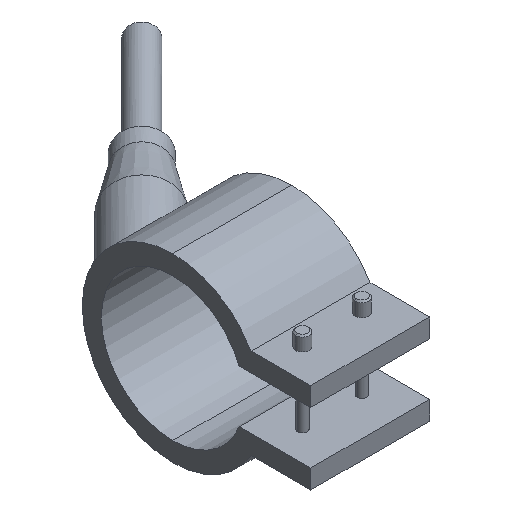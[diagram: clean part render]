
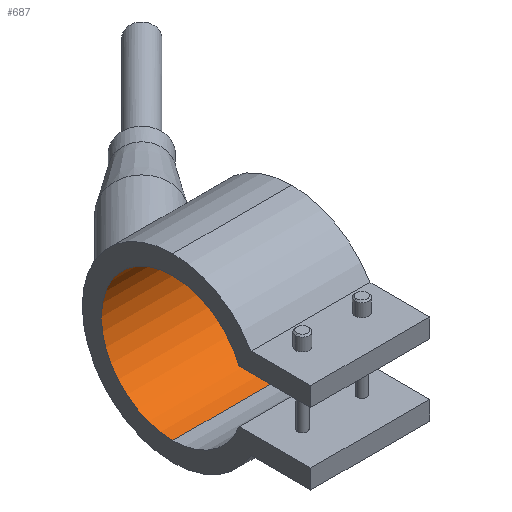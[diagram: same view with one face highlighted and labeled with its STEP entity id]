
A CAD part, isometric view. The second image highlights one B-rep face of the part: STEP entity #687.
In plain terms, the highlighted cylindrical face has radius 15 mm (diameter 30 mm), a partial arc.
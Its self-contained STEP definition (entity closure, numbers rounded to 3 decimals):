
#357=CARTESIAN_POINT('Vertex',(12.5,0.,15.)) ;
#362=CARTESIAN_POINT('Axis2P3D Location',(12.5,0.,0.)) ;
#366=CARTESIAN_POINT('Vertex',(12.5,0.,-15.)) ;
#473=CARTESIAN_POINT('Vertex',(-12.5,0.,-15.)) ;
#476=CARTESIAN_POINT('Axis2P3D Location',(-12.5,0.,0.)) ;
#480=CARTESIAN_POINT('Vertex',(-12.5,0.,15.)) ;
#659=CARTESIAN_POINT('Line Origine',(12.5,0.,15.)) ;
#671=CARTESIAN_POINT('Axis2P3D Location',(12.5,0.,0.)) ;
#676=CARTESIAN_POINT('Line Origine',(12.5,0.,-15.)) ;
#363=DIRECTION('Axis2P3D Direction',(1.,0.,0.)) ;
#477=DIRECTION('Axis2P3D Direction',(1.,0.,0.)) ;
#660=DIRECTION('Vector Direction',(1.,0.,0.)) ;
#672=DIRECTION('Axis2P3D Direction',(1.,0.,-0.)) ;
#673=DIRECTION('Axis2P3D XDirection',(0.,0.,-1.)) ;
#677=DIRECTION('Vector Direction',(1.,0.,0.)) ;
#364=AXIS2_PLACEMENT_3D('Circle Axis2P3D',#362,#363,$) ;
#478=AXIS2_PLACEMENT_3D('Circle Axis2P3D',#476,#477,$) ;
#674=AXIS2_PLACEMENT_3D('Cylinder Axis2P3D',#671,#672,#673) ;
#682=ORIENTED_EDGE('',*,*,#368,.T.) ;
#683=ORIENTED_EDGE('',*,*,#663,.T.) ;
#684=ORIENTED_EDGE('',*,*,#482,.F.) ;
#685=ORIENTED_EDGE('',*,*,#680,.T.) ;
#661=VECTOR('Line Direction',#660,1.) ;
#678=VECTOR('Line Direction',#677,1.) ;
#687=ADVANCED_FACE('29030025',(#686),#675,.F.) ;
#365=CIRCLE('generated circle',#364,15.) ;
#479=CIRCLE('generated circle',#478,15.) ;
#675=CYLINDRICAL_SURFACE('generated cylinder',#674,15.) ;
#368=EDGE_CURVE('',#367,#358,#365,.T.) ;
#482=EDGE_CURVE('',#474,#481,#479,.T.) ;
#663=EDGE_CURVE('',#358,#481,#662,.F.) ;
#680=EDGE_CURVE('',#474,#367,#679,.T.) ;
#681=EDGE_LOOP('',(#682,#683,#684,#685)) ;
#686=FACE_OUTER_BOUND('',#681,.T.) ;
#662=LINE('Line',#659,#661) ;
#679=LINE('Line',#676,#678) ;
#358=VERTEX_POINT('',#357) ;
#367=VERTEX_POINT('',#366) ;
#474=VERTEX_POINT('',#473) ;
#481=VERTEX_POINT('',#480) ;
